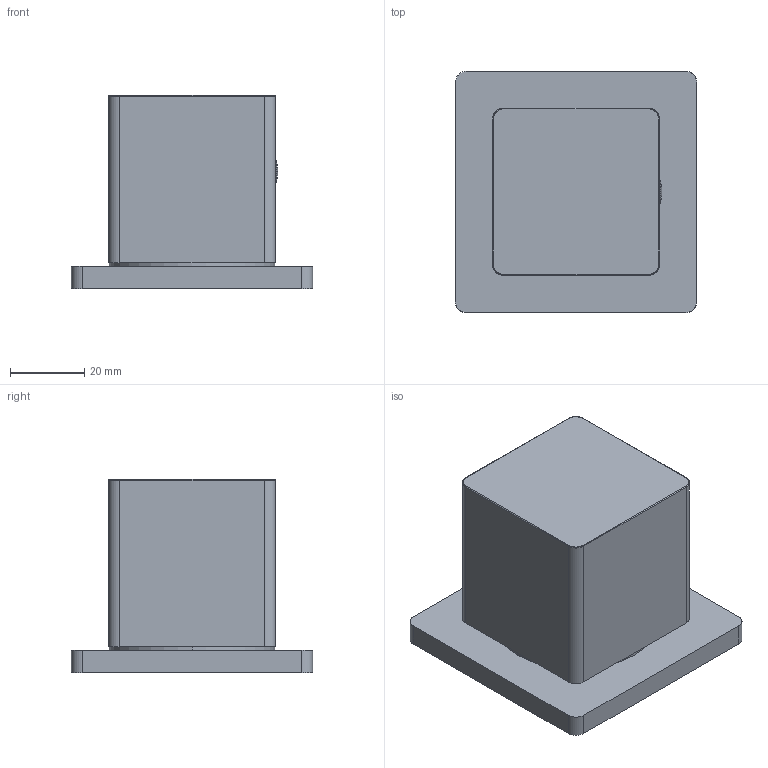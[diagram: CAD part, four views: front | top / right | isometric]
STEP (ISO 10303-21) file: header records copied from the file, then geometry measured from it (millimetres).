
FILE_DESCRIPTION(('STEP AP214'),'2;1');
FILE_NAME('DIS_3D_F490B_D491A.stp','2025-11-12T15:41:43',(''),(''),'2015.2.119','THINKDESIGN','');
FILE_SCHEMA(('AUTOMOTIVE_DESIGN'));
Length unit declared in the file: millimetre
Products named in the file (1): top
Bounding box: 65 x 65 x 52 mm (x, y, z)
Volume: 816.6 mm3; surface area: 22308.1 mm2
Topology: 2 solids, 2 shells, 95 faces, 311 edges, 263 vertices
Faces by surface type: cylinder 34, bspline 31, plane 30
Full cylindrical faces by diameter (mm): 42.219 x1
Entity records: 4691 total; most frequent: CARTESIAN_POINT 2046, DIRECTION 432, ORIENTED_EDGE 250, COMPOSITE_CURVE_SEGMENT 182, AXIS2_PLACEMENT_3D 149, VECTOR 134, LINE 134, TRIMMED_CURVE 126
